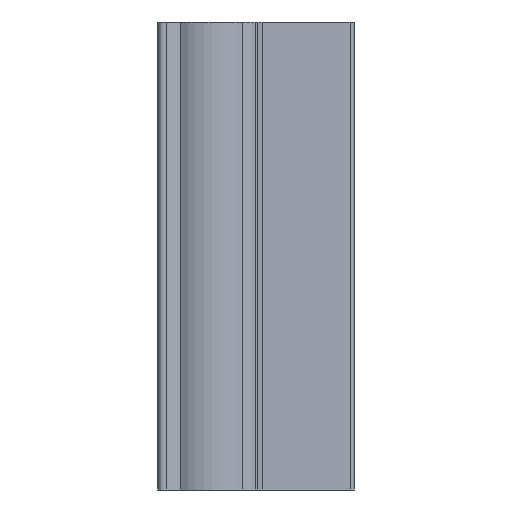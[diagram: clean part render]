
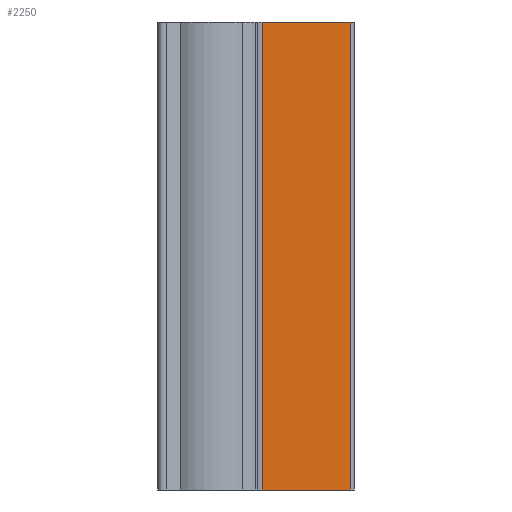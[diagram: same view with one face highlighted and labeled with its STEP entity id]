
A CAD part, left-side view. The second image highlights one B-rep face of the part: STEP entity #2250.
In plain terms, the highlighted planar face has unit normal (-0.996, -0.087, 0).
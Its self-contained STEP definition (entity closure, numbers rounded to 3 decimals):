
#13 = VERTEX_POINT ( 'NONE', #1698 ) ;
#42 = CARTESIAN_POINT ( 'NONE',  ( -2.878, -10.906, -25. ) ) ;
#66 = LINE ( 'NONE', #783, #1924 ) ;
#241 = DIRECTION ( 'NONE',  ( 0.087, -0.996, 0. ) ) ;
#350 = ORIENTED_EDGE ( 'NONE', *, *, #900, .F. ) ;
#410 = DIRECTION ( 'NONE',  ( 0.087, -0.996, 0. ) ) ;
#413 = EDGE_CURVE ( 'NONE', #984, #2216, #1781, .T. ) ;
#433 = VECTOR ( 'NONE', #1744, 1000. ) ;
#510 = CARTESIAN_POINT ( 'NONE',  ( -3.698, -1.537, -25. ) ) ;
#590 = VERTEX_POINT ( 'NONE', #42 ) ;
#592 = DIRECTION ( 'NONE',  ( -0.996, -0.087, 0. ) ) ;
#692 = ORIENTED_EDGE ( 'NONE', *, *, #978, .T. ) ;
#764 = CARTESIAN_POINT ( 'NONE',  ( -3.698, -1.537, -25. ) ) ;
#783 = CARTESIAN_POINT ( 'NONE',  ( -3.698, -1.537, 25. ) ) ;
#842 = ORIENTED_EDGE ( 'NONE', *, *, #2184, .T. ) ;
#870 = ORIENTED_EDGE ( 'NONE', *, *, #413, .T. ) ;
#900 = EDGE_CURVE ( 'NONE', #984, #13, #66, .T. ) ;
#978 = EDGE_CURVE ( 'NONE', #590, #13, #1177, .T. ) ;
#984 = VERTEX_POINT ( 'NONE', #1954 ) ;
#1113 = PLANE ( 'NONE',  #1429 ) ;
#1147 = EDGE_LOOP ( 'NONE', ( #870, #842, #692, #350 ) ) ;
#1177 = LINE ( 'NONE', #1917, #433 ) ;
#1228 = DIRECTION ( 'NONE',  ( 0.087, -0.996, 0. ) ) ;
#1249 = CARTESIAN_POINT ( 'NONE',  ( -3.698, -1.537, -25. ) ) ;
#1429 = AXIS2_PLACEMENT_3D ( 'NONE', #2041, #592, #241 ) ;
#1698 = CARTESIAN_POINT ( 'NONE',  ( -2.878, -10.906, 25. ) ) ;
#1744 = DIRECTION ( 'NONE',  ( 0., 0., 1. ) ) ;
#1781 = LINE ( 'NONE', #1249, #2206 ) ;
#1801 = LINE ( 'NONE', #510, #2339 ) ;
#1917 = CARTESIAN_POINT ( 'NONE',  ( -2.878, -10.906, -25. ) ) ;
#1924 = VECTOR ( 'NONE', #410, 1000. ) ;
#1954 = CARTESIAN_POINT ( 'NONE',  ( -3.698, -1.537, 25. ) ) ;
#2031 = FACE_OUTER_BOUND ( 'NONE', #1147, .T. ) ;
#2041 = CARTESIAN_POINT ( 'NONE',  ( -3.698, -1.537, -25. ) ) ;
#2184 = EDGE_CURVE ( 'NONE', #2216, #590, #1801, .T. ) ;
#2206 = VECTOR ( 'NONE', #2358, 1000. ) ;
#2216 = VERTEX_POINT ( 'NONE', #764 ) ;
#2250 = ADVANCED_FACE ( 'NONE', ( #2031 ), #1113, .T. ) ;
#2339 = VECTOR ( 'NONE', #1228, 1000. ) ;
#2358 = DIRECTION ( 'NONE',  ( 0., 0., -1. ) ) ;
